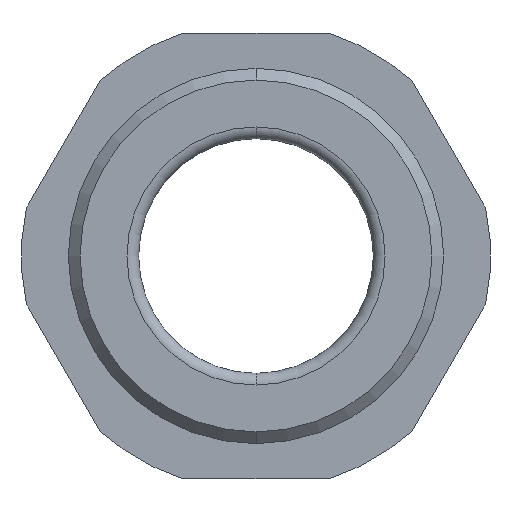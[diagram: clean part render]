
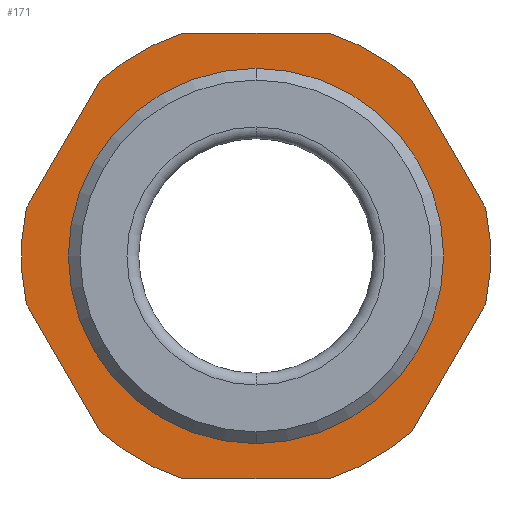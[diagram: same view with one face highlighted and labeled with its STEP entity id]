
A CAD part, front view. The second image highlights one B-rep face of the part: STEP entity #171.
In plain terms, the highlighted planar face has unit normal (0, -1, 0).
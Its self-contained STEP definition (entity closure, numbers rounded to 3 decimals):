
#22 = ORIENTED_EDGE ( 'NONE', *, *, #480, .F. ) ;
#24 = VECTOR ( 'NONE', #777, 1000. ) ;
#39 = EDGE_CURVE ( 'NONE', #277, #1321, #1118, .T. ) ;
#63 = CIRCLE ( 'NONE', #417, 10. ) ;
#64 = ORIENTED_EDGE ( 'NONE', *, *, #807, .T. ) ;
#79 = VECTOR ( 'NONE', #280, 1000. ) ;
#122 = CIRCLE ( 'NONE', #1091, 10. ) ;
#130 = EDGE_CURVE ( 'NONE', #1378, #665, #122, .T. ) ;
#135 = CARTESIAN_POINT ( 'NONE',  ( 0., 12., 0. ) ) ;
#144 = CARTESIAN_POINT ( 'NONE',  ( 6.666, 12., 7.454 ) ) ;
#146 = DIRECTION ( 'NONE',  ( 0., 0., 1. ) ) ;
#149 = DIRECTION ( 'NONE',  ( 0., 1., 0. ) ) ;
#161 = VERTEX_POINT ( 'NONE', #798 ) ;
#167 = EDGE_CURVE ( 'NONE', #441, #1363, #1009, .T. ) ;
#170 = CARTESIAN_POINT ( 'NONE',  ( 6.227, 12., -8.214 ) ) ;
#171 = ADVANCED_FACE ( 'NONE', ( #1229, #970 ), #1226, .T. ) ;
#184 = CIRCLE ( 'NONE', #1164, 10. ) ;
#196 = DIRECTION ( 'NONE',  ( 0., 1., 0. ) ) ;
#209 = VERTEX_POINT ( 'NONE', #475 ) ;
#210 = DIRECTION ( 'NONE',  ( 0., 0., -1. ) ) ;
#248 = CARTESIAN_POINT ( 'NONE',  ( -3.122, 12., -9.5 ) ) ;
#251 = DIRECTION ( 'NONE',  ( 0., 0., 1. ) ) ;
#252 = VECTOR ( 'NONE', #385, 1000. ) ;
#264 = EDGE_LOOP ( 'NONE', ( #22, #271, #925, #1021, #1148, #1360, #279, #1103, #1061, #64, #1383, #985 ) ) ;
#267 = EDGE_CURVE ( 'NONE', #647, #930, #1257, .T. ) ;
#271 = ORIENTED_EDGE ( 'NONE', *, *, #502, .T. ) ;
#277 = VERTEX_POINT ( 'NONE', #1159 ) ;
#279 = ORIENTED_EDGE ( 'NONE', *, *, #1315, .F. ) ;
#280 = DIRECTION ( 'NONE',  ( 0.5, 0., 0.866 ) ) ;
#285 = CARTESIAN_POINT ( 'NONE',  ( 9.788, 12., 2.046 ) ) ;
#317 = DIRECTION ( 'NONE',  ( 0., 1., 0. ) ) ;
#322 = EDGE_CURVE ( 'NONE', #1087, #665, #588, .T. ) ;
#342 = CARTESIAN_POINT ( 'NONE',  ( -8., 12., 9.5 ) ) ;
#385 = DIRECTION ( 'NONE',  ( -0.5, 0., -0.866 ) ) ;
#390 = CARTESIAN_POINT ( 'NONE',  ( -9.788, 12., 2.046 ) ) ;
#406 = VERTEX_POINT ( 'NONE', #390 ) ;
#417 = AXIS2_PLACEMENT_3D ( 'NONE', #1210, #540, #1335 ) ;
#420 = CARTESIAN_POINT ( 'NONE',  ( -8., 12., -9.5 ) ) ;
#430 = CARTESIAN_POINT ( 'NONE',  ( 6.666, 12., -7.454 ) ) ;
#441 = VERTEX_POINT ( 'NONE', #285 ) ;
#442 = DIRECTION ( 'NONE',  ( -0.5, 0., 0.866 ) ) ;
#447 = DIRECTION ( 'NONE',  ( 0., 0., 1. ) ) ;
#475 = CARTESIAN_POINT ( 'NONE',  ( 0., 12., 8. ) ) ;
#480 = EDGE_CURVE ( 'NONE', #937, #1321, #63, .T. ) ;
#484 = CARTESIAN_POINT ( 'NONE',  ( -6.666, 12., 7.454 ) ) ;
#502 = EDGE_CURVE ( 'NONE', #937, #930, #941, .T. ) ;
#507 = CARTESIAN_POINT ( 'NONE',  ( 3.122, 12., 9.5 ) ) ;
#540 = DIRECTION ( 'NONE',  ( 0., 1., 0. ) ) ;
#549 = AXIS2_PLACEMENT_3D ( 'NONE', #995, #196, #890 ) ;
#554 = EDGE_CURVE ( 'NONE', #161, #209, #1139, .T. ) ;
#561 = CARTESIAN_POINT ( 'NONE',  ( 6.227, 12., 8.214 ) ) ;
#562 = EDGE_CURVE ( 'NONE', #277, #406, #845, .T. ) ;
#565 = CARTESIAN_POINT ( 'NONE',  ( 0., 12., 0. ) ) ;
#570 = LINE ( 'NONE', #628, #252 ) ;
#588 = LINE ( 'NONE', #342, #1462 ) ;
#594 = DIRECTION ( 'NONE',  ( 0., 0., 1. ) ) ;
#608 = CARTESIAN_POINT ( 'NONE',  ( 3.122, 12., -9.5 ) ) ;
#610 = DIRECTION ( 'NONE',  ( 0., 1., 0. ) ) ;
#628 = CARTESIAN_POINT ( 'NONE',  ( -10.227, 12., 1.286 ) ) ;
#647 = VERTEX_POINT ( 'NONE', #430 ) ;
#651 = ORIENTED_EDGE ( 'NONE', *, *, #826, .T. ) ;
#665 = VERTEX_POINT ( 'NONE', #887 ) ;
#671 = CARTESIAN_POINT ( 'NONE',  ( 0., 12., 0. ) ) ;
#689 = AXIS2_PLACEMENT_3D ( 'NONE', #1409, #725, #146 ) ;
#696 = LINE ( 'NONE', #170, #79 ) ;
#725 = DIRECTION ( 'NONE',  ( 0., 1., 0. ) ) ;
#752 = AXIS2_PLACEMENT_3D ( 'NONE', #1006, #317, #1123 ) ;
#759 = EDGE_LOOP ( 'NONE', ( #651, #817 ) ) ;
#768 = AXIS2_PLACEMENT_3D ( 'NONE', #671, #1459, #793 ) ;
#777 = DIRECTION ( 'NONE',  ( 1., 0., 0. ) ) ;
#779 = CARTESIAN_POINT ( 'NONE',  ( -6.666, 12., -7.454 ) ) ;
#793 = DIRECTION ( 'NONE',  ( 0., 0., 1. ) ) ;
#798 = CARTESIAN_POINT ( 'NONE',  ( 0., 12., -8. ) ) ;
#807 = EDGE_CURVE ( 'NONE', #1378, #406, #570, .T. ) ;
#817 = ORIENTED_EDGE ( 'NONE', *, *, #554, .T. ) ;
#826 = EDGE_CURVE ( 'NONE', #209, #161, #1445, .T. ) ;
#828 = VECTOR ( 'NONE', #1171, 1000. ) ;
#840 = CARTESIAN_POINT ( 'NONE',  ( 0., 12., 0. ) ) ;
#845 = CIRCLE ( 'NONE', #752, 10. ) ;
#887 = CARTESIAN_POINT ( 'NONE',  ( -3.122, 12., 9.5 ) ) ;
#890 = DIRECTION ( 'NONE',  ( 0., 0., 1. ) ) ;
#925 = ORIENTED_EDGE ( 'NONE', *, *, #267, .F. ) ;
#930 = VERTEX_POINT ( 'NONE', #608 ) ;
#937 = VERTEX_POINT ( 'NONE', #248 ) ;
#941 = LINE ( 'NONE', #420, #24 ) ;
#970 = FACE_OUTER_BOUND ( 'NONE', #264, .T. ) ;
#985 = ORIENTED_EDGE ( 'NONE', *, *, #39, .T. ) ;
#995 = CARTESIAN_POINT ( 'NONE',  ( 0., 12., 0. ) ) ;
#1006 = CARTESIAN_POINT ( 'NONE',  ( 0., 12., 0. ) ) ;
#1007 = DIRECTION ( 'NONE',  ( 0., -1., 0. ) ) ;
#1009 = LINE ( 'NONE', #561, #1042 ) ;
#1021 = ORIENTED_EDGE ( 'NONE', *, *, #1037, .T. ) ;
#1037 = EDGE_CURVE ( 'NONE', #647, #1147, #696, .T. ) ;
#1042 = VECTOR ( 'NONE', #442, 1000. ) ;
#1061 = ORIENTED_EDGE ( 'NONE', *, *, #130, .F. ) ;
#1070 = CARTESIAN_POINT ( 'NONE',  ( -10.227, 12., -1.286 ) ) ;
#1087 = VERTEX_POINT ( 'NONE', #507 ) ;
#1091 = AXIS2_PLACEMENT_3D ( 'NONE', #565, #1232, #447 ) ;
#1097 = AXIS2_PLACEMENT_3D ( 'NONE', #840, #149, #594 ) ;
#1103 = ORIENTED_EDGE ( 'NONE', *, *, #322, .T. ) ;
#1105 = CARTESIAN_POINT ( 'NONE',  ( 9.788, 12., -2.046 ) ) ;
#1118 = LINE ( 'NONE', #1070, #828 ) ;
#1123 = DIRECTION ( 'NONE',  ( 0., 0., 1. ) ) ;
#1124 = CARTESIAN_POINT ( 'NONE',  ( -8., 12., 0. ) ) ;
#1139 = CIRCLE ( 'NONE', #768, 8. ) ;
#1147 = VERTEX_POINT ( 'NONE', #1105 ) ;
#1148 = ORIENTED_EDGE ( 'NONE', *, *, #1404, .F. ) ;
#1159 = CARTESIAN_POINT ( 'NONE',  ( -9.788, 12., -2.046 ) ) ;
#1164 = AXIS2_PLACEMENT_3D ( 'NONE', #135, #610, #251 ) ;
#1165 = DIRECTION ( 'NONE',  ( -1., 0., 0. ) ) ;
#1171 = DIRECTION ( 'NONE',  ( 0.5, 0., -0.866 ) ) ;
#1210 = CARTESIAN_POINT ( 'NONE',  ( 0., 12., 0. ) ) ;
#1226 = PLANE ( 'NONE',  #1317 ) ;
#1229 = FACE_BOUND ( 'NONE', #759, .T. ) ;
#1232 = DIRECTION ( 'NONE',  ( 0., 1., 0. ) ) ;
#1257 = CIRCLE ( 'NONE', #689, 10. ) ;
#1315 = EDGE_CURVE ( 'NONE', #1087, #1363, #1440, .T. ) ;
#1317 = AXIS2_PLACEMENT_3D ( 'NONE', #1124, #1007, #210 ) ;
#1321 = VERTEX_POINT ( 'NONE', #779 ) ;
#1335 = DIRECTION ( 'NONE',  ( 0., 0., 1. ) ) ;
#1360 = ORIENTED_EDGE ( 'NONE', *, *, #167, .T. ) ;
#1363 = VERTEX_POINT ( 'NONE', #144 ) ;
#1378 = VERTEX_POINT ( 'NONE', #484 ) ;
#1383 = ORIENTED_EDGE ( 'NONE', *, *, #562, .F. ) ;
#1404 = EDGE_CURVE ( 'NONE', #441, #1147, #184, .T. ) ;
#1409 = CARTESIAN_POINT ( 'NONE',  ( 0., 12., 0. ) ) ;
#1440 = CIRCLE ( 'NONE', #549, 10. ) ;
#1445 = CIRCLE ( 'NONE', #1097, 8. ) ;
#1459 = DIRECTION ( 'NONE',  ( 0., 1., 0. ) ) ;
#1462 = VECTOR ( 'NONE', #1165, 1000. ) ;
